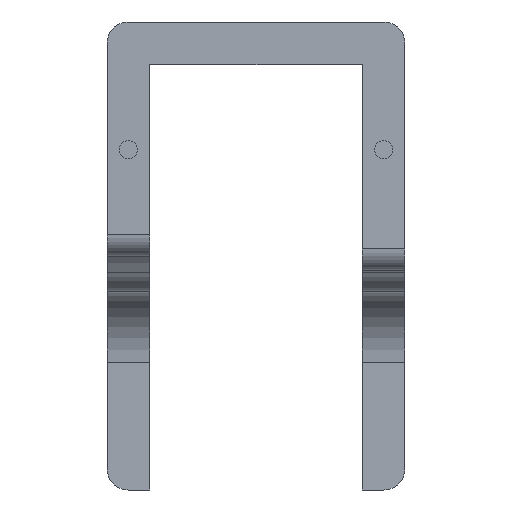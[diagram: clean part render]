
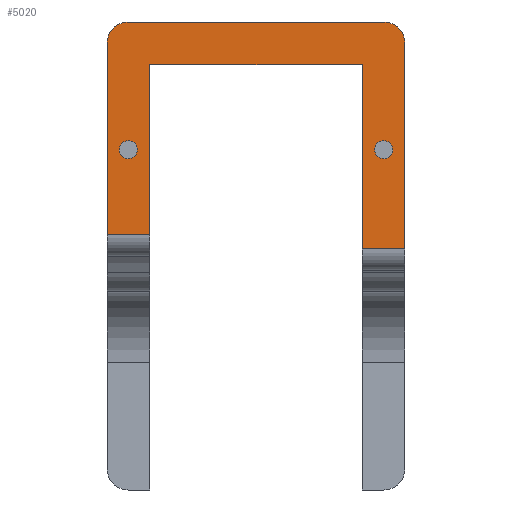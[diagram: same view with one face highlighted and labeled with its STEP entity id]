
A CAD part, front view. The second image highlights one B-rep face of the part: STEP entity #5020.
In plain terms, the highlighted planar face has unit normal (0, -1, 0).
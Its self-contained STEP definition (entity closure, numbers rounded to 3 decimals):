
#74=FACE_BOUND('',#584,.T.);
#75=FACE_BOUND('',#585,.T.);
#224=PLANE('',#5332);
#296=FACE_OUTER_BOUND('',#583,.T.);
#583=EDGE_LOOP('',(#3441,#3442,#3443,#3444,#3445,#3446,#3447,#3448,#3449,
#3450));
#584=EDGE_LOOP('',(#3451));
#585=EDGE_LOOP('',(#3452));
#1012=LINE('',#7555,#1424);
#1014=LINE('',#7561,#1426);
#1039=LINE('',#7627,#1451);
#1040=LINE('',#7631,#1452);
#1041=LINE('',#7635,#1453);
#1042=LINE('',#7637,#1454);
#1043=LINE('',#7639,#1455);
#1044=LINE('',#7640,#1456);
#1424=VECTOR('',#5940,10.);
#1426=VECTOR('',#5946,10.);
#1451=VECTOR('',#5989,10.);
#1452=VECTOR('',#5992,10.);
#1453=VECTOR('',#5995,10.);
#1454=VECTOR('',#5996,10.);
#1455=VECTOR('',#5997,10.);
#1456=VECTOR('',#5998,10.);
#1849=CIRCLE('',#5333,3.);
#1850=CIRCLE('',#5334,3.);
#1851=CIRCLE('',#5335,1.265);
#1852=CIRCLE('',#5336,1.265);
#2160=VERTEX_POINT('',#7552);
#2161=VERTEX_POINT('',#7554);
#2163=VERTEX_POINT('',#7560);
#2195=VERTEX_POINT('',#7626);
#2196=VERTEX_POINT('',#7628);
#2197=VERTEX_POINT('',#7630);
#2198=VERTEX_POINT('',#7632);
#2199=VERTEX_POINT('',#7634);
#2200=VERTEX_POINT('',#7636);
#2201=VERTEX_POINT('',#7638);
#2202=VERTEX_POINT('',#7641);
#2203=VERTEX_POINT('',#7643);
#2669=EDGE_CURVE('',#2160,#2161,#1012,.T.);
#2672=EDGE_CURVE('',#2163,#2161,#1014,.T.);
#2705=EDGE_CURVE('',#2160,#2195,#1039,.T.);
#2706=EDGE_CURVE('',#2196,#2195,#1849,.T.);
#2707=EDGE_CURVE('',#2196,#2197,#1040,.T.);
#2708=EDGE_CURVE('',#2198,#2197,#1850,.T.);
#2709=EDGE_CURVE('',#2198,#2199,#1041,.T.);
#2710=EDGE_CURVE('',#2200,#2199,#1042,.T.);
#2711=EDGE_CURVE('',#2200,#2201,#1043,.T.);
#2712=EDGE_CURVE('',#2201,#2163,#1044,.T.);
#2713=EDGE_CURVE('',#2202,#2202,#1851,.T.);
#2714=EDGE_CURVE('',#2203,#2203,#1852,.T.);
#3441=ORIENTED_EDGE('',*,*,#2669,.F.);
#3442=ORIENTED_EDGE('',*,*,#2705,.T.);
#3443=ORIENTED_EDGE('',*,*,#2706,.F.);
#3444=ORIENTED_EDGE('',*,*,#2707,.T.);
#3445=ORIENTED_EDGE('',*,*,#2708,.F.);
#3446=ORIENTED_EDGE('',*,*,#2709,.T.);
#3447=ORIENTED_EDGE('',*,*,#2710,.F.);
#3448=ORIENTED_EDGE('',*,*,#2711,.T.);
#3449=ORIENTED_EDGE('',*,*,#2712,.T.);
#3450=ORIENTED_EDGE('',*,*,#2672,.T.);
#3451=ORIENTED_EDGE('',*,*,#2713,.T.);
#3452=ORIENTED_EDGE('',*,*,#2714,.T.);
#5020=ADVANCED_FACE('',(#296,#74,#75),#224,.T.);
#5332=AXIS2_PLACEMENT_3D('',#7625,#5987,#5988);
#5333=AXIS2_PLACEMENT_3D('',#7629,#5990,#5991);
#5334=AXIS2_PLACEMENT_3D('',#7633,#5993,#5994);
#5335=AXIS2_PLACEMENT_3D('',#7642,#5999,#6000);
#5336=AXIS2_PLACEMENT_3D('',#7644,#6001,#6002);
#5940=DIRECTION('',(-1.,0.,0.));
#5946=DIRECTION('',(0.,0.,-1.));
#5987=DIRECTION('center_axis',(0.,-1.,0.));
#5988=DIRECTION('ref_axis',(0.,0.,-1.));
#5989=DIRECTION('',(0.,0.,1.));
#5990=DIRECTION('center_axis',(0.,1.,0.));
#5991=DIRECTION('ref_axis',(0.707,0.,0.707));
#5992=DIRECTION('',(-1.,0.,0.));
#5993=DIRECTION('center_axis',(0.,1.,0.));
#5994=DIRECTION('ref_axis',(-0.707,0.,0.707));
#5995=DIRECTION('',(0.,0.,-1.));
#5996=DIRECTION('',(-1.,0.,0.));
#5997=DIRECTION('',(0.,0.,1.));
#5998=DIRECTION('',(1.,0.,0.));
#5999=DIRECTION('center_axis',(0.,1.,0.));
#6000=DIRECTION('ref_axis',(0.,0.,-1.));
#6001=DIRECTION('center_axis',(0.,1.,0.));
#6002=DIRECTION('ref_axis',(0.,0.,-1.));
#7552=CARTESIAN_POINT('',(21.,-500.,16.));
#7554=CARTESIAN_POINT('',(15.,-500.,16.));
#7555=CARTESIAN_POINT('',(7.5,-500.,16.));
#7560=CARTESIAN_POINT('',(15.,-500.,42.));
#7561=CARTESIAN_POINT('',(15.,-500.,42.));
#7625=CARTESIAN_POINT('Origin',(0.,-500.,28.));
#7626=CARTESIAN_POINT('',(21.,-500.,45.));
#7627=CARTESIAN_POINT('',(21.,-500.,48.));
#7628=CARTESIAN_POINT('',(18.,-500.,48.));
#7629=CARTESIAN_POINT('Origin',(18.,-500.,45.));
#7630=CARTESIAN_POINT('',(-18.,-500.,48.));
#7631=CARTESIAN_POINT('',(-21.,-500.,48.));
#7632=CARTESIAN_POINT('',(-21.,-500.,45.));
#7633=CARTESIAN_POINT('Origin',(-18.,-500.,45.));
#7634=CARTESIAN_POINT('',(-21.,-500.,18.));
#7635=CARTESIAN_POINT('',(-21.,-500.,-18.));
#7636=CARTESIAN_POINT('',(-15.,-500.,18.));
#7637=CARTESIAN_POINT('',(7.5,-500.,18.));
#7638=CARTESIAN_POINT('',(-15.,-500.,42.));
#7639=CARTESIAN_POINT('',(-15.,-500.,-18.));
#7640=CARTESIAN_POINT('',(-15.,-500.,42.));
#7641=CARTESIAN_POINT('',(-18.,-500.,31.265));
#7642=CARTESIAN_POINT('Origin',(-18.,-500.,30.));
#7643=CARTESIAN_POINT('',(18.,-500.,31.265));
#7644=CARTESIAN_POINT('Origin',(18.,-500.,30.));
